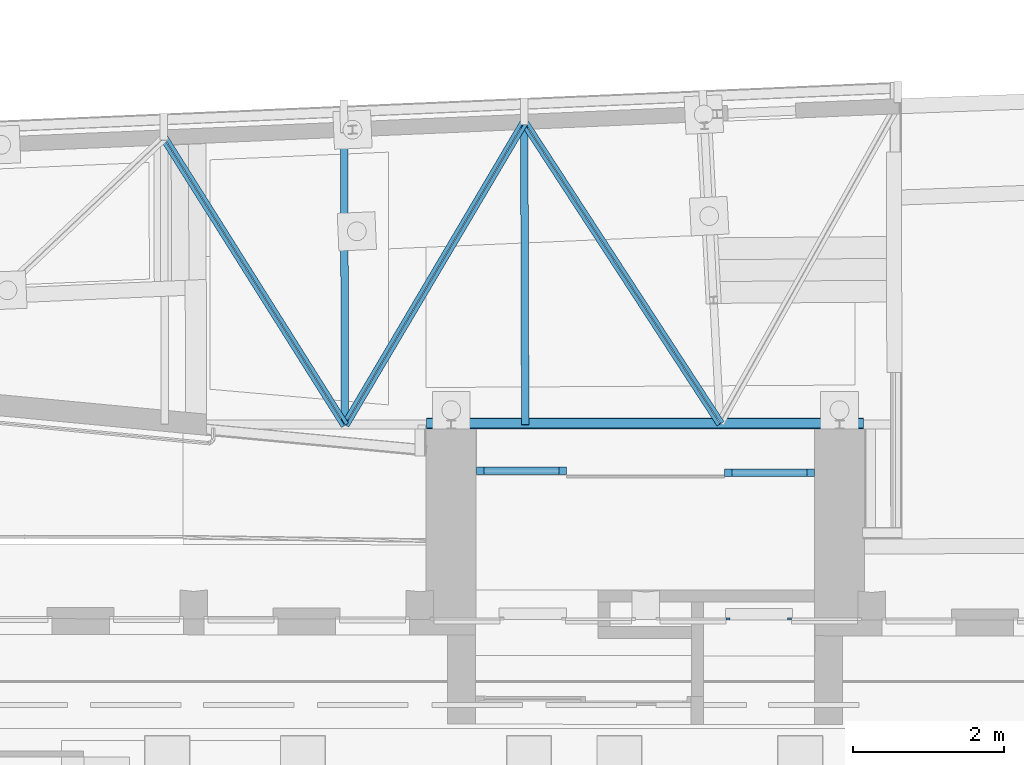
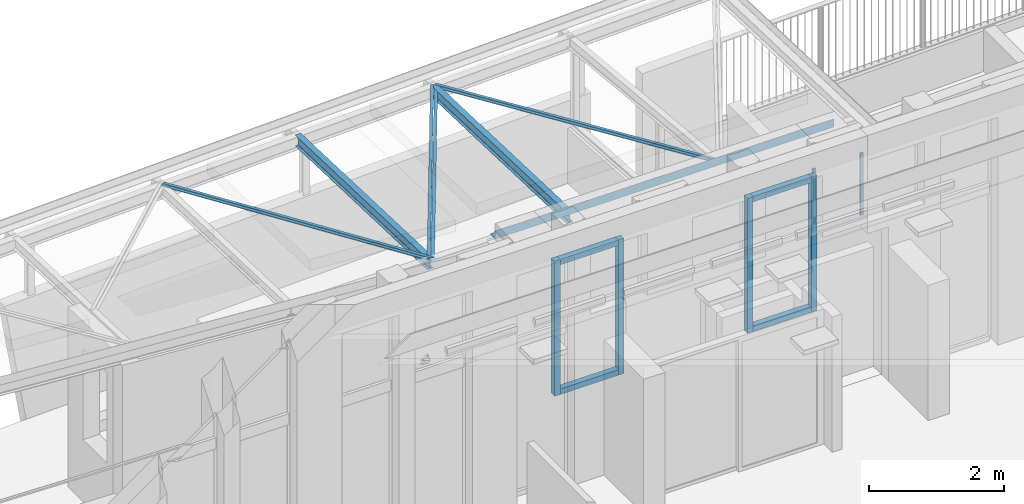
# One storey, part 10 of 128: 18 members, 6 beams, 6 elements without a shape of their own.
"""IFC2X3 building model written with IfcOpenShell, lengths in metres."""

from ifc_helpers import new_model, entity, si_unit, converted_unit, derived_unit, direction, frame, frame_2d, origin, origin_2d_with_axis, place, context, subcontext, project, spatial, polyline, circle_curve, parameter, trimmed, segment, composite_curve, rectangle, i_section, outline, extrude, source, transform, mapped, material, type_object, type_shapes, element, aggregate, save


model = new_model("IFC2X3")

# Units and contexts
model_context = context("Model", 3, precision=1e-05, world=origin(), true_north=direction((6.123031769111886e-17, 1.0)))
body_context = subcontext(model_context, "Body", "Model", "MODEL_VIEW")
ifc_project = project(units=[si_unit("LENGTHUNIT", "METRE"), si_unit("AREAUNIT", "SQUARE_METRE"), converted_unit("PLANEANGLEUNIT", "DEGREE", entity("IfcPlaneAngleMeasure", 0.017453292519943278), si_unit("PLANEANGLEUNIT", "RADIAN"), dimensions=[0, 0, 0, 0, 0, 0, 0]), derived_unit("THERMALTRANSMITTANCEUNIT", [(si_unit("MASSUNIT", "GRAM", prefix="KILO"), 1), (si_unit("THERMODYNAMICTEMPERATUREUNIT", "KELVIN"), -1), (si_unit("TIMEUNIT", "SECOND"), -3)])], contexts=[model_context])

# Site, building, storey
site_placement = place(None, origin())
site = spatial("IfcSite", under=ifc_project, at=site_placement, Name="Default", CompositionType="ELEMENT")
building_placement = place(site_placement, origin())
building = spatial("IfcBuilding", under=site, at=building_placement, CompositionType="ELEMENT")
storey_placement = place(building_placement, origin())
storey = spatial("IfcBuildingStorey", under=building, at=storey_placement, Name="00_RDC CAF", CompositionType="ELEMENT", Elevation=2.4982504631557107e-13)

# Curtain wall, member
curtain_wall_type_1 = type_object("IfcCurtainWallType", PredefinedType="NOTDEFINED")
curtain_wall_1_placement = place(storey_placement, origin())
curtain_wall_1 = element("IfcCurtainWall", 1, at=curtain_wall_1_placement, inside=storey, type_object=curtain_wall_type_1)
ifc_material_1 = material(Name="ARC - M.Ex - Blanc")
member_type_1 = type_object("IfcMemberType", Name="Meneau rectangulaire:F.Ri.M_Ext_Rectangulaire_100x100mm", PredefinedType="MULLION", material=ifc_material_1)
shared_shape_1 = source(origin(), body_context, "Body", "SweptSolid", [
    extrude(rectangle(XDim=0.1, YDim=0.10000000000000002, at=origin_2d_with_axis()), frame((-0.05, 0.0, -0.994778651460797), z_axis=(0.0, 0.0, 1.0), x_axis=(-1.0, 0.0, 0.0)), (0.0, 0.0, 1.0), 0.9947786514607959),
])
type_shapes(member_type_1, [shared_shape_1])
member_1_placement = place(curtain_wall_1_placement, frame((29.890725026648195, 146.08765821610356, 2.4499999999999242), z_axis=(1.0, 0.0, 0.0), x_axis=(0.0, 0.0, 1.0)))
member_1 = element("IfcMember", 2, at=member_1_placement, type_object=member_type_1, material=ifc_material_1, Name="Meneau rectangulaire:F.Ri.M_Ext_Rectangulaire_100x100mm", ObjectType="Meneau rectangulaire:F.Ri.M_Ext_Rectangulaire_100x100mm", context=body_context, shape_type="MappedRepresentation", body=[
    mapped(shared_shape_1, transform((0.0, 0.0, 0.0), scale=1.0)),
])

curtain_wall_2_placement = place(storey_placement, origin())
curtain_wall_2 = element("IfcCurtainWall", 3, at=curtain_wall_2_placement, inside=storey, type_object=curtain_wall_type_1)
member_2_placement = place(curtain_wall_2_placement, frame((29.890725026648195, 146.08765821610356, 2.45), z_axis=(1.0, 0.0, 0.0), x_axis=(0.0, 0.0, 1.0)))
member_2 = element("IfcMember", 4, at=member_2_placement, type_object=member_type_1, material=ifc_material_1, Name="Meneau rectangulaire:F.Ri.M_Ext_Rectangulaire_100x100mm", ObjectType="Meneau rectangulaire:F.Ri.M_Ext_Rectangulaire_100x100mm", context=body_context, shape_type="MappedRepresentation", body=[
    mapped(shared_shape_1, transform((0.0, 0.0, 0.0), scale=1.0)),
])

# Member
member_type_2 = type_object("IfcMemberType", Name="Meneau rectangulaire:F.Ri.M_Ext_Rectangulaire_100x100mm", PredefinedType="MULLION", material=ifc_material_1)
shared_shape_2 = source(origin(), body_context, "Body", "SweptSolid", [
    extrude(rectangle(XDim=0.1, YDim=0.10000000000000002, at=origin_2d_with_axis()), frame((-0.05, 0.0, -0.994778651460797), z_axis=(0.0, 0.0, 1.0), x_axis=(-1.0, 0.0, 0.0)), (0.0, 0.0, 1.0), 0.9947786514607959),
])
type_shapes(member_type_2, [shared_shape_2])
member_3_placement = place(curtain_wall_1_placement, frame((28.895946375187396, 146.08765821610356, 0.0), z_axis=(-1.0, 0.0, 0.0), x_axis=(0.0, 0.0, -1.0)))
member_3 = element("IfcMember", 5, at=member_3_placement, type_object=member_type_2, material=ifc_material_1, Name="Meneau rectangulaire:F.Ri.M_Ext_Rectangulaire_100x100mm", ObjectType="Meneau rectangulaire:F.Ri.M_Ext_Rectangulaire_100x100mm", context=body_context, shape_type="MappedRepresentation", body=[
    mapped(shared_shape_2, transform((0.0, 0.0, 0.0), scale=1.0)),
])

member_4_placement = place(curtain_wall_2_placement, frame((28.895946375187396, 146.08765821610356, 0.0), z_axis=(-1.0, 0.0, 0.0), x_axis=(0.0, 0.0, -1.0)))
member_4 = element("IfcMember", 6, at=member_4_placement, type_object=member_type_2, material=ifc_material_1, Name="Meneau rectangulaire:F.Ri.M_Ext_Rectangulaire_100x100mm", ObjectType="Meneau rectangulaire:F.Ri.M_Ext_Rectangulaire_100x100mm", context=body_context, shape_type="MappedRepresentation", body=[
    mapped(shared_shape_2, transform((0.0, 0.0, 0.0), scale=1.0)),
])

member_type_3 = type_object("IfcMemberType", Name="Meneau rectangulaire:F.Ri.M_Ext_Rectangulaire_100x100mm", PredefinedType="MULLION", material=ifc_material_1)
shared_shape_3 = source(origin(), body_context, "Body", "SweptSolid", [
    extrude(rectangle(XDim=0.1, YDim=0.10000000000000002, at=origin_2d_with_axis()), frame((-0.05, 0.0, -2.45), z_axis=(0.0, 0.0, 1.0), x_axis=(-1.0, 0.0, 0.0)), (0.0, 0.0, 1.0), 2.45),
])
type_shapes(member_type_3, [shared_shape_3])
member_5_placement = place(curtain_wall_1_placement, frame((29.990725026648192, 146.08765821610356, 0.0), z_axis=(0.0, 0.0, -1.0), x_axis=(1.0, 0.0, 0.0)))
member_5 = element("IfcMember", 7, at=member_5_placement, type_object=member_type_3, material=ifc_material_1, Name="Meneau rectangulaire:F.Ri.M_Ext_Rectangulaire_100x100mm", ObjectType="Meneau rectangulaire:F.Ri.M_Ext_Rectangulaire_100x100mm", context=body_context, shape_type="MappedRepresentation", body=[
    mapped(shared_shape_3, transform((0.0, 0.0, 0.0), scale=1.0)),
])

member_6_placement = place(curtain_wall_2_placement, frame((29.990725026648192, 146.08765821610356, 0.0), z_axis=(0.0, 0.0, -1.0), x_axis=(1.0, 0.0, 0.0)))
member_6 = element("IfcMember", 8, at=member_6_placement, type_object=member_type_3, material=ifc_material_1, Name="Meneau rectangulaire:F.Ri.M_Ext_Rectangulaire_100x100mm", ObjectType="Meneau rectangulaire:F.Ri.M_Ext_Rectangulaire_100x100mm", context=body_context, shape_type="MappedRepresentation", body=[
    mapped(shared_shape_3, transform((0.0, 0.0, 0.0), scale=1.0)),
])

member_type_4 = type_object("IfcMemberType", Name="Meneau rectangulaire:F.Ri.M_Ext_Rectangulaire_100x100mm", PredefinedType="MULLION", material=ifc_material_1)
shared_shape_4 = source(origin(), body_context, "Body", "SweptSolid", [
    extrude(rectangle(XDim=0.1, YDim=0.10000000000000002, at=origin_2d_with_axis()), frame((-0.05, 0.0, -2.45), z_axis=(0.0, 0.0, 1.0), x_axis=(-1.0, 0.0, 0.0)), (0.0, 0.0, 1.0), 2.45),
])
type_shapes(member_type_4, [shared_shape_4])
member_7_placement = place(curtain_wall_1_placement, frame((28.7959463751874, 146.08765821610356, 2.4499999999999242), z_axis=(0.0, 0.0, 1.0), x_axis=(-1.0, 0.0, 0.0)))
member_7 = element("IfcMember", 9, at=member_7_placement, type_object=member_type_4, material=ifc_material_1, Name="Meneau rectangulaire:F.Ri.M_Ext_Rectangulaire_100x100mm", ObjectType="Meneau rectangulaire:F.Ri.M_Ext_Rectangulaire_100x100mm", context=body_context, shape_type="MappedRepresentation", body=[
    mapped(shared_shape_4, transform((0.0, 0.0, 0.0), scale=1.0)),
])

aggregate(curtain_wall_1, [member_1, member_3, member_5, member_7])

member_8_placement = place(curtain_wall_2_placement, frame((28.7959463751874, 146.08765821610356, 2.45), z_axis=(0.0, 0.0, 1.0), x_axis=(-1.0, 0.0, 0.0)))
member_8 = element("IfcMember", 10, at=member_8_placement, type_object=member_type_4, material=ifc_material_1, Name="Meneau rectangulaire:F.Ri.M_Ext_Rectangulaire_100x100mm", ObjectType="Meneau rectangulaire:F.Ri.M_Ext_Rectangulaire_100x100mm", context=body_context, shape_type="MappedRepresentation", body=[
    mapped(shared_shape_4, transform((0.0, 0.0, 0.0), scale=1.0)),
])

aggregate(curtain_wall_2, [member_2, member_4, member_6, member_8])

# Curtain wall, member
curtain_wall_3_placement = place(storey_placement, origin())
curtain_wall_3 = element("IfcCurtainWall", 11, at=curtain_wall_3_placement, inside=storey, type_object=curtain_wall_type_1)
member_type_5 = type_object("IfcMemberType", Name="Meneau rectangulaire:F.Ri.M_Ext_Rectangulaire_100x100mm", PredefinedType="MULLION", material=ifc_material_1)
shared_shape_5 = source(origin(), body_context, "Body", "SweptSolid", [
    extrude(rectangle(XDim=0.1, YDim=0.10000000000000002, at=origin_2d_with_axis()), frame((-0.05, 0.0, -0.9947786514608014), z_axis=(0.0, 0.0, 1.0), x_axis=(-1.0, 0.0, 0.0)), (0.0, 0.0, 1.0), 0.9947786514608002),
])
type_shapes(member_type_5, [shared_shape_5])
member_9_placement = place(curtain_wall_3_placement, frame((25.601167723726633, 146.10885821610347, 2.4499999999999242), z_axis=(-1.0, 0.0, 0.0), x_axis=(0.0, 0.0, 1.0)))
member_9 = element("IfcMember", 12, at=member_9_placement, type_object=member_type_5, material=ifc_material_1, Name="Meneau rectangulaire:F.Ri.M_Ext_Rectangulaire_100x100mm", ObjectType="Meneau rectangulaire:F.Ri.M_Ext_Rectangulaire_100x100mm", context=body_context, shape_type="MappedRepresentation", body=[
    mapped(shared_shape_5, transform((0.0, 0.0, 0.0), scale=1.0)),
])

curtain_wall_4_placement = place(storey_placement, origin())
curtain_wall_4 = element("IfcCurtainWall", 13, at=curtain_wall_4_placement, inside=storey, type_object=curtain_wall_type_1)
member_10_placement = place(curtain_wall_4_placement, frame((25.601167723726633, 146.10885821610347, 2.45), z_axis=(-1.0, 0.0, 0.0), x_axis=(0.0, 0.0, 1.0)))
member_10 = element("IfcMember", 14, at=member_10_placement, type_object=member_type_5, material=ifc_material_1, Name="Meneau rectangulaire:F.Ri.M_Ext_Rectangulaire_100x100mm", ObjectType="Meneau rectangulaire:F.Ri.M_Ext_Rectangulaire_100x100mm", context=body_context, shape_type="MappedRepresentation", body=[
    mapped(shared_shape_5, transform((0.0, 0.0, 0.0), scale=1.0)),
])

# Member
member_type_6 = type_object("IfcMemberType", Name="Meneau rectangulaire:F.Ri.M_Ext_Rectangulaire_100x100mm", PredefinedType="MULLION", material=ifc_material_1)
shared_shape_6 = source(origin(), body_context, "Body", "SweptSolid", [
    extrude(rectangle(XDim=0.1, YDim=0.10000000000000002, at=origin_2d_with_axis()), frame((-0.05, 0.0, -0.9947786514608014), z_axis=(0.0, 0.0, 1.0), x_axis=(-1.0, 0.0, 0.0)), (0.0, 0.0, 1.0), 0.9947786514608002),
])
type_shapes(member_type_6, [shared_shape_6])
member_11_placement = place(curtain_wall_3_placement, frame((26.595946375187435, 146.10885821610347, 0.0), z_axis=(1.0, 0.0, 0.0), x_axis=(0.0, 0.0, -1.0)))
member_11 = element("IfcMember", 15, at=member_11_placement, type_object=member_type_6, material=ifc_material_1, Name="Meneau rectangulaire:F.Ri.M_Ext_Rectangulaire_100x100mm", ObjectType="Meneau rectangulaire:F.Ri.M_Ext_Rectangulaire_100x100mm", context=body_context, shape_type="MappedRepresentation", body=[
    mapped(shared_shape_6, transform((0.0, 0.0, 0.0), scale=1.0)),
])

member_12_placement = place(curtain_wall_4_placement, frame((26.595946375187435, 146.10885821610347, 0.0), z_axis=(1.0, 0.0, 0.0), x_axis=(0.0, 0.0, -1.0)))
member_12 = element("IfcMember", 16, at=member_12_placement, type_object=member_type_6, material=ifc_material_1, Name="Meneau rectangulaire:F.Ri.M_Ext_Rectangulaire_100x100mm", ObjectType="Meneau rectangulaire:F.Ri.M_Ext_Rectangulaire_100x100mm", context=body_context, shape_type="MappedRepresentation", body=[
    mapped(shared_shape_6, transform((0.0, 0.0, 0.0), scale=1.0)),
])

member_type_7 = type_object("IfcMemberType", Name="Meneau rectangulaire:F.Ri.M_Ext_Rectangulaire_100x100mm", PredefinedType="MULLION", material=ifc_material_1)
shared_shape_7 = source(origin(), body_context, "Body", "SweptSolid", [
    extrude(rectangle(XDim=0.1, YDim=0.10000000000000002, at=origin_2d_with_axis()), frame((-0.05, 0.0, -2.45), z_axis=(0.0, 0.0, 1.0), x_axis=(-1.0, 0.0, 0.0)), (0.0, 0.0, 1.0), 2.45),
])
type_shapes(member_type_7, [shared_shape_7])
member_13_placement = place(curtain_wall_3_placement, frame((25.50116772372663, 146.10885821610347, 0.0), z_axis=(0.0, 0.0, -1.0), x_axis=(-1.0, 0.0, 0.0)))
member_13 = element("IfcMember", 17, at=member_13_placement, type_object=member_type_7, material=ifc_material_1, Name="Meneau rectangulaire:F.Ri.M_Ext_Rectangulaire_100x100mm", ObjectType="Meneau rectangulaire:F.Ri.M_Ext_Rectangulaire_100x100mm", context=body_context, shape_type="MappedRepresentation", body=[
    mapped(shared_shape_7, transform((0.0, 0.0, 0.0), scale=1.0)),
])

member_14_placement = place(curtain_wall_4_placement, frame((25.50116772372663, 146.10885821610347, 0.0), z_axis=(0.0, 0.0, -1.0), x_axis=(-1.0, 0.0, 0.0)))
member_14 = element("IfcMember", 18, at=member_14_placement, type_object=member_type_7, material=ifc_material_1, Name="Meneau rectangulaire:F.Ri.M_Ext_Rectangulaire_100x100mm", ObjectType="Meneau rectangulaire:F.Ri.M_Ext_Rectangulaire_100x100mm", context=body_context, shape_type="MappedRepresentation", body=[
    mapped(shared_shape_7, transform((0.0, 0.0, 0.0), scale=1.0)),
])

member_type_8 = type_object("IfcMemberType", Name="Meneau rectangulaire:F.Ri.M_Ext_Rectangulaire_100x100mm", PredefinedType="MULLION", material=ifc_material_1)
shared_shape_8 = source(origin(), body_context, "Body", "SweptSolid", [
    extrude(rectangle(XDim=0.1, YDim=0.10000000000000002, at=origin_2d_with_axis()), frame((-0.05, 0.0, -2.45), z_axis=(0.0, 0.0, 1.0), x_axis=(-1.0, 0.0, 0.0)), (0.0, 0.0, 1.0), 2.45),
])
type_shapes(member_type_8, [shared_shape_8])
member_15_placement = place(curtain_wall_3_placement, frame((26.695946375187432, 146.10885821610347, 2.4499999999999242)))
member_15 = element("IfcMember", 19, at=member_15_placement, type_object=member_type_8, material=ifc_material_1, Name="Meneau rectangulaire:F.Ri.M_Ext_Rectangulaire_100x100mm", ObjectType="Meneau rectangulaire:F.Ri.M_Ext_Rectangulaire_100x100mm", context=body_context, shape_type="MappedRepresentation", body=[
    mapped(shared_shape_8, transform((0.0, 0.0, 0.0), scale=1.0)),
])

aggregate(curtain_wall_3, [member_9, member_11, member_13, member_15])

member_16_placement = place(curtain_wall_4_placement, frame((26.695946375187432, 146.10885821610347, 2.45)))
member_16 = element("IfcMember", 20, at=member_16_placement, type_object=member_type_8, material=ifc_material_1, Name="Meneau rectangulaire:F.Ri.M_Ext_Rectangulaire_100x100mm", ObjectType="Meneau rectangulaire:F.Ri.M_Ext_Rectangulaire_100x100mm", context=body_context, shape_type="MappedRepresentation", body=[
    mapped(shared_shape_8, transform((0.0, 0.0, 0.0), scale=1.0)),
])

aggregate(curtain_wall_4, [member_10, member_12, member_14, member_16])

# Curtain wall, member
curtain_wall_type_2 = type_object("IfcCurtainWallType", Name="Mur-rideau:FRi.Ext.30mm RDC", PredefinedType="NOTDEFINED")
curtain_wall_5_placement = place(storey_placement, origin())
curtain_wall_5 = element("IfcCurtainWall", 21, at=curtain_wall_5_placement, inside=storey, type_object=curtain_wall_type_2, Name="Mur-rideau:FRi.Ext.30mm RDC", ObjectType="Mur-rideau:FRi.Ext.30mm RDC")
member_type_9 = type_object("IfcMemberType", Name="Meneau rectangulaire:F.Ri.M_Ext_Rectangulaire_50x30mm", PredefinedType="MULLION", material=ifc_material_1)
shared_shape_9 = source(origin(), body_context, "Body", "SweptSolid", [
    extrude(rectangle(XDim=0.05, YDim=0.03, at=origin_2d_with_axis()), frame((-0.025, 0.0, -1.1279999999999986), z_axis=(0.0, 0.0, 1.0), x_axis=(-1.0, 0.0, 0.0)), (0.0, 0.0, 1.0), 1.1279999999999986),
])
type_shapes(member_type_9, [shared_shape_9])
member_17_placement = place(curtain_wall_5_placement, frame((28.865999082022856, 144.1440583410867, 3.0), z_axis=(0.0, 0.0, -1.0), x_axis=(1.0, 0.0, 0.0)))
member_17 = element("IfcMember", 22, at=member_17_placement, type_object=member_type_9, material=ifc_material_1, Name="Meneau rectangulaire:F.Ri.M_Ext_Rectangulaire_50x30mm", ObjectType="Meneau rectangulaire:F.Ri.M_Ext_Rectangulaire_50x30mm", context=body_context, shape_type="MappedRepresentation", body=[
    mapped(shared_shape_9, transform((0.0, 0.0, 0.0), scale=1.0)),
])
aggregate(curtain_wall_5, [member_17])

curtain_wall_6_placement = place(storey_placement, origin())
curtain_wall_6 = element("IfcCurtainWall", 23, at=curtain_wall_6_placement, inside=storey, type_object=curtain_wall_type_2, Name="Mur-rideau:FRi.Ext.30mm RDC", ObjectType="Mur-rideau:FRi.Ext.30mm RDC")
member_type_10 = type_object("IfcMemberType", Name="Meneau rectangulaire:F.Ri.M_Ext_Rectangulaire_50x30mm", PredefinedType="MULLION", material=ifc_material_1)
shared_shape_10 = source(origin(), body_context, "Body", "SweptSolid", [
    extrude(rectangle(XDim=0.05, YDim=0.03, at=origin_2d_with_axis()), frame((-0.025, 0.0, -1.1279999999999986), z_axis=(0.0, 0.0, 1.0), x_axis=(-1.0, 0.0, 0.0)), (0.0, 0.0, 1.0), 1.1279999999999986),
])
type_shapes(member_type_10, [shared_shape_10])
member_18_placement = place(curtain_wall_6_placement, frame((29.632372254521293, 144.1428530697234, 4.127999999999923), z_axis=(0.0, 0.0, 1.0), x_axis=(-1.0, 0.0, 0.0)))
member_18 = element("IfcMember", 24, at=member_18_placement, type_object=member_type_10, material=ifc_material_1, Name="Meneau rectangulaire:F.Ri.M_Ext_Rectangulaire_50x30mm", ObjectType="Meneau rectangulaire:F.Ri.M_Ext_Rectangulaire_50x30mm", context=body_context, shape_type="MappedRepresentation", body=[
    mapped(shared_shape_10, transform((0.0, 0.0, 0.0), scale=1.0)),
])
aggregate(curtain_wall_6, [member_18])

# Beams
ifc_material_2 = material(Name="Acier structurel - S235")
beam_type_1 = type_object("IfcBeamType", Name="IPE:IPE200", PredefinedType="BEAM")
beam_1_placement = place(storey_placement, frame((23.75729544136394, 146.71492311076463, 2.7184647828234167), z_axis=(-9.787612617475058e-05, 0.03099694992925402, 0.9995194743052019), x_axis=(-0.003156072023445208, 0.9995144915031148, -0.030997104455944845)))
element("IfcBeam", 25, at=beam_1_placement, inside=storey, type_object=beam_type_1, material=ifc_material_2, Name="IPE:IPE200", ObjectType="IPE:IPE200", context=body_context, shape_type="SweptSolid", body=[
    extrude(i_section(OverallWidth=0.099999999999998, OverallDepth=0.20000000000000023, WebThickness=0.005599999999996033, FlangeThickness=0.008500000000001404, FilletRadius=0.012000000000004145, at=frame_2d((1.6167622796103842e-15, 2.168404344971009e-15), x_axis=(0.0, 1.0))), frame((0.018627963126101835, 0.0, -0.10000000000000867), z_axis=(1.0, 0.0, 0.0), x_axis=(0.0, 0.0, -1.0)), (0.0, 0.0, 1.0), 3.9081000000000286),
])
beam_2_placement = place(storey_placement, frame((26.14924568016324, 146.72069221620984, 2.718171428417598), z_axis=(-0.0001028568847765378, 0.030983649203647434, 0.9995198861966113), x_axis=(-0.0033181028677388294, 0.9995143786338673, -0.030983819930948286)))
element("IfcBeam", 26, at=beam_2_placement, inside=storey, type_object=beam_type_1, material=ifc_material_2, Name="IPE:IPE200", ObjectType="IPE:IPE200", context=body_context, shape_type="SweptSolid", body=[
    extrude(i_section(OverallWidth=0.10000000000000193, OverallDepth=0.19999999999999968, WebThickness=0.0056000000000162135, FlangeThickness=0.008500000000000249, FilletRadius=0.011999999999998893, at=frame_2d((2.706168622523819e-16, -2.1649348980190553e-15), x_axis=(0.0, 1.0))), frame((0.004016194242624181, 0.0, -0.10000000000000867), z_axis=(1.0, 0.0, 0.0), x_axis=(0.0, 0.0, -1.0)), (0.0, 0.0, 1.0), 4.0193000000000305),
])
beam_type_2 = type_object("IfcBeamType", Name="LL-Deux cornières:DCED50x5x10", PredefinedType="BEAM", material=ifc_material_2)
shared_shape_11 = source(origin(), body_context, "Body", "SweptSolid", [
    extrude(outline(composite_curve([segment(polyline([(-0.016428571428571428, -0.016428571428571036), (0.03357142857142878, -0.016428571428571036)]), True, "CONTINUOUS"), segment(trimmed(circle_curve(frame_2d((0.02857142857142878, -0.016428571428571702), x_axis=(1.0, 0.0)), 0.005), [parameter(1.6284439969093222e-12)], [parameter(90.00000000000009)], True, "PARAMETER"), True, "CONTINUOUS"), segment(polyline([(0.0285714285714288, -0.0114285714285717), (-0.0064285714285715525, -0.0114285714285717)]), True, "CONTINUOUS"), segment(trimmed(circle_curve(frame_2d((-0.006428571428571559, -0.006428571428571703), x_axis=(1.0, 0.0)), 0.005), [parameter(180.00000000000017)], [parameter(269.9999999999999)], True, "PARAMETER"), False, "CONTINUOUS"), segment(polyline([(-0.01142857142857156, -0.006428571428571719), (-0.01142857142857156, 0.02857142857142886)]), True, "CONTINUOUS"), segment(trimmed(circle_curve(frame_2d((-0.01642857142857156, 0.02857142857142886), x_axis=(1.0, 0.0)), 0.005), [parameter(0.0)], [parameter(89.99999999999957)], True, "PARAMETER"), True, "CONTINUOUS"), segment(polyline([(-0.01642857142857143, 0.033571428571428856), (-0.01642857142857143, -0.016428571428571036)]), True, "CONTINUOUS")], self_intersect=False)), frame((-2.3365, -0.021428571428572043, -0.0024285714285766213), z_axis=(1.0, 0.0, 0.0), x_axis=(0.0, -1.0, 0.0)), (0.0, 0.0, 1.0), 4.667000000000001),
    extrude(outline(composite_curve([segment(polyline([(-0.01642857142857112, -0.016428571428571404), (0.03357142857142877, -0.016428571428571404)]), True, "CONTINUOUS"), segment(trimmed(circle_curve(frame_2d((0.028571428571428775, -0.016428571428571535), x_axis=(0.0, 1.0)), 0.005), [parameter(270.00000000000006)], [parameter(359.9999999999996)], True, "PARAMETER"), True, "CONTINUOUS"), segment(polyline([(0.028571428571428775, -0.011428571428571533), (-0.0064285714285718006, -0.011428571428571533)]), True, "CONTINUOUS"), segment(trimmed(circle_curve(frame_2d((-0.006428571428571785, -0.006428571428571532), x_axis=(0.0, 1.0)), 0.005), [parameter(90.00000000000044)], [parameter(180.0000000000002)], True, "PARAMETER"), False, "CONTINUOUS"), segment(polyline([(-0.01142857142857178, -0.006428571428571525), (-0.01142857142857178, 0.02857142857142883)]), True, "CONTINUOUS"), segment(trimmed(circle_curve(frame_2d((-0.016428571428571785, 0.028571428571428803), x_axis=(0.0, 1.0)), 0.005), [parameter(269.9999999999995)], [parameter(359.99999999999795)], True, "PARAMETER"), True, "CONTINUOUS"), segment(polyline([(-0.01642857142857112, 0.0335714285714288), (-0.01642857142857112, -0.016428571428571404)]), True, "CONTINUOUS")], self_intersect=False)), frame((-2.3364999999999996, 0.021428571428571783, -0.0024285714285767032), z_axis=(1.0, 0.0, 0.0), x_axis=(0.0, 0.0, -1.0)), (0.0, 0.0, 1.0), 4.667),
])
type_shapes(beam_type_2, [shared_shape_11])
beam_3_placement = place(storey_placement, frame((24.94641466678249, 148.72537661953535, 2.642080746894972), z_axis=(0.013590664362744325, 0.02297784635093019, 0.9996435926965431), x_axis=(-0.5089044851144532, -0.8604089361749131, 0.02669620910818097)))
element("IfcBeam", 27, at=beam_3_placement, inside=storey, type_object=beam_type_2, material=ifc_material_2, Name="LL-Deux cornières:DCED50x5x10", ObjectType="LL-Deux cornières:DCED50x5x10", context=body_context, shape_type="MappedRepresentation", body=[
    mapped(shared_shape_11, transform((0.0, 0.0, 0.0), scale=1.0)),
])
beam_type_3 = type_object("IfcBeamType", Name="LL-Deux cornières:DCED50x5x10", PredefinedType="BEAM", material=ifc_material_2)
shared_shape_12 = source(origin(), body_context, "Body", "SweptSolid", [
    extrude(outline(composite_curve([segment(polyline([(-0.016428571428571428, -0.016428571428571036), (0.03357142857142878, -0.016428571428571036)]), True, "CONTINUOUS"), segment(trimmed(circle_curve(frame_2d((0.02857142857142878, -0.016428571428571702), x_axis=(1.0, 0.0)), 0.005), [parameter(1.6284439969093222e-12)], [parameter(90.00000000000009)], True, "PARAMETER"), True, "CONTINUOUS"), segment(polyline([(0.0285714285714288, -0.0114285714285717), (-0.0064285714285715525, -0.0114285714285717)]), True, "CONTINUOUS"), segment(trimmed(circle_curve(frame_2d((-0.006428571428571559, -0.006428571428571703), x_axis=(1.0, 0.0)), 0.005), [parameter(180.00000000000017)], [parameter(269.9999999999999)], True, "PARAMETER"), False, "CONTINUOUS"), segment(polyline([(-0.01142857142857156, -0.006428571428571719), (-0.01142857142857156, 0.02857142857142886)]), True, "CONTINUOUS"), segment(trimmed(circle_curve(frame_2d((-0.01642857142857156, 0.02857142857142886), x_axis=(1.0, 0.0)), 0.005), [parameter(0.0)], [parameter(89.99999999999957)], True, "PARAMETER"), True, "CONTINUOUS"), segment(polyline([(-0.01642857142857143, 0.033571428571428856), (-0.01642857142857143, -0.016428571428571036)]), True, "CONTINUOUS")], self_intersect=False)), frame((-2.254209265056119, -0.021428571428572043, -0.0024285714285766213), z_axis=(1.0, 0.0, 0.0), x_axis=(0.0, -1.0, 0.0)), (0.0, 0.0, 1.0), 4.5062370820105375),
    extrude(outline(composite_curve([segment(polyline([(-0.01642857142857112, -0.016428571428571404), (0.03357142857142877, -0.016428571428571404)]), True, "CONTINUOUS"), segment(trimmed(circle_curve(frame_2d((0.028571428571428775, -0.016428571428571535), x_axis=(0.0, 1.0)), 0.005), [parameter(270.00000000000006)], [parameter(359.9999999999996)], True, "PARAMETER"), True, "CONTINUOUS"), segment(polyline([(0.028571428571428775, -0.011428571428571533), (-0.0064285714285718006, -0.011428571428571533)]), True, "CONTINUOUS"), segment(trimmed(circle_curve(frame_2d((-0.006428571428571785, -0.006428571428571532), x_axis=(0.0, 1.0)), 0.005), [parameter(90.00000000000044)], [parameter(180.0000000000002)], True, "PARAMETER"), False, "CONTINUOUS"), segment(polyline([(-0.01142857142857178, -0.006428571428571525), (-0.01142857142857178, 0.02857142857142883)]), True, "CONTINUOUS"), segment(trimmed(circle_curve(frame_2d((-0.016428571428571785, 0.028571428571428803), x_axis=(0.0, 1.0)), 0.005), [parameter(269.9999999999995)], [parameter(359.99999999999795)], True, "PARAMETER"), True, "CONTINUOUS"), segment(polyline([(-0.01642857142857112, 0.0335714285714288), (-0.01642857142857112, -0.016428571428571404)]), True, "CONTINUOUS")], self_intersect=False)), frame((-2.2542092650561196, 0.021428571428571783, -0.0024285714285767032), z_axis=(1.0, 0.0, 0.0), x_axis=(0.0, 0.0, -1.0)), (0.0, 0.0, 1.0), 4.506237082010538),
])
type_shapes(beam_type_3, [shared_shape_12])
beam_4_placement = place(storey_placement, frame((22.55638308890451, 148.62133927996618, 2.6453242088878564), z_axis=(-0.013984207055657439, 0.02219955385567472, 0.9996557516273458), x_axis=(-0.5328129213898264, 0.8458262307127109, -0.02623696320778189)))
element("IfcBeam", 28, at=beam_4_placement, inside=storey, type_object=beam_type_3, material=ifc_material_2, Name="LL-Deux cornières:DCED50x5x10", ObjectType="LL-Deux cornières:DCED50x5x10", context=body_context, shape_type="MappedRepresentation", body=[
    mapped(shared_shape_12, transform((0.0, 0.0, 0.0), scale=1.0)),
])
beam_type_4 = type_object("IfcBeamType", Name="LL-Deux cornières:DCED50x5x10", PredefinedType="BEAM", material=ifc_material_2)
shared_shape_13 = source(origin(), body_context, "Body", "SweptSolid", [
    extrude(outline(composite_curve([segment(polyline([(-0.016428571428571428, -0.016428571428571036), (0.03357142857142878, -0.016428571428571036)]), True, "CONTINUOUS"), segment(trimmed(circle_curve(frame_2d((0.02857142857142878, -0.016428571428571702), x_axis=(1.0, 0.0)), 0.005), [parameter(1.6284439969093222e-12)], [parameter(90.00000000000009)], True, "PARAMETER"), True, "CONTINUOUS"), segment(polyline([(0.0285714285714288, -0.0114285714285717), (-0.0064285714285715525, -0.0114285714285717)]), True, "CONTINUOUS"), segment(trimmed(circle_curve(frame_2d((-0.006428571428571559, -0.006428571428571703), x_axis=(1.0, 0.0)), 0.005), [parameter(180.00000000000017)], [parameter(269.9999999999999)], True, "PARAMETER"), False, "CONTINUOUS"), segment(polyline([(-0.01142857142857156, -0.006428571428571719), (-0.01142857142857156, 0.02857142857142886)]), True, "CONTINUOUS"), segment(trimmed(circle_curve(frame_2d((-0.01642857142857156, 0.02857142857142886), x_axis=(1.0, 0.0)), 0.005), [parameter(0.0)], [parameter(89.99999999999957)], True, "PARAMETER"), True, "CONTINUOUS"), segment(polyline([(-0.01642857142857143, 0.033571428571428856), (-0.01642857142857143, -0.016428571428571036)]), True, "CONTINUOUS")], self_intersect=False)), frame((-2.3815000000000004, -0.021428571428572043, -0.0024285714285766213), z_axis=(1.0, 0.0, 0.0), x_axis=(0.0, -1.0, 0.0)), (0.0, 0.0, 1.0), 4.776000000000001),
    extrude(outline(composite_curve([segment(polyline([(-0.01642857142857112, -0.016428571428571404), (0.03357142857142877, -0.016428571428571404)]), True, "CONTINUOUS"), segment(trimmed(circle_curve(frame_2d((0.028571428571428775, -0.016428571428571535), x_axis=(0.0, 1.0)), 0.005), [parameter(270.00000000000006)], [parameter(359.9999999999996)], True, "PARAMETER"), True, "CONTINUOUS"), segment(polyline([(0.028571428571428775, -0.011428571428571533), (-0.0064285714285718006, -0.011428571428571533)]), True, "CONTINUOUS"), segment(trimmed(circle_curve(frame_2d((-0.006428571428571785, -0.006428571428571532), x_axis=(0.0, 1.0)), 0.005), [parameter(90.00000000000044)], [parameter(180.0000000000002)], True, "PARAMETER"), False, "CONTINUOUS"), segment(polyline([(-0.01142857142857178, -0.006428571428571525), (-0.01142857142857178, 0.02857142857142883)]), True, "CONTINUOUS"), segment(trimmed(circle_curve(frame_2d((-0.016428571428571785, 0.028571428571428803), x_axis=(0.0, 1.0)), 0.005), [parameter(269.9999999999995)], [parameter(359.99999999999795)], True, "PARAMETER"), True, "CONTINUOUS"), segment(polyline([(-0.01642857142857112, 0.0335714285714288), (-0.01642857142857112, -0.016428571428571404)]), True, "CONTINUOUS")], self_intersect=False)), frame((-2.3815, 0.021428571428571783, -0.0024285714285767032), z_axis=(1.0, 0.0, 0.0), x_axis=(0.0, 0.0, -1.0)), (0.0, 0.0, 1.0), 4.776),
])
type_shapes(beam_type_4, [shared_shape_13])
beam_5_placement = place(storey_placement, frame((27.435308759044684, 148.74097650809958, 2.6415750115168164), z_axis=(-0.01417815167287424, 0.021773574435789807, 0.9996623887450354), x_axis=(0.5454892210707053, -0.8377149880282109, 0.025982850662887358)))
element("IfcBeam", 29, at=beam_5_placement, inside=storey, type_object=beam_type_4, material=ifc_material_2, Name="LL-Deux cornières:DCED50x5x10", ObjectType="LL-Deux cornières:DCED50x5x10", context=body_context, shape_type="MappedRepresentation", body=[
    mapped(shared_shape_13, transform((0.0, 0.0, 0.0), scale=1.0)),
])
beam_type_5 = type_object("IfcBeamType", Name="Cornière à ailes égales:L150x10", PredefinedType="BEAM")
beam_6_placement = place(storey_placement, frame((24.834872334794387, 146.70324110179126, 2.8681714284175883)))
element("IfcBeam", 30, at=beam_6_placement, inside=storey, type_object=beam_type_5, material=ifc_material_2, Name="Cornière à ailes égales:L150x10", ObjectType="Cornière à ailes égales:L150x10", context=body_context, shape_type="SweptSolid", body=[
    extrude(outline(composite_curve([segment(polyline([(-0.09555555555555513, -0.05444444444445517), (0.05444444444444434, -0.05444444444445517)]), True, "CONTINUOUS"), segment(polyline([(0.05444444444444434, -0.05444444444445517), (0.05444444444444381, 0.09555555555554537)]), True, "CONTINUOUS"), segment(polyline([(0.05444444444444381, 0.09555555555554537), (0.05244444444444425, 0.09555555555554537)]), True, "CONTINUOUS"), segment(trimmed(circle_curve(frame_2d((0.05244444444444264, 0.0875555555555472), x_axis=(0.0, 1.0)), 0.007999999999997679), [parameter(0.0)], [parameter(90.0000000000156)], True, "PARAMETER"), True, "CONTINUOUS"), segment(polyline([(0.044444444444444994, 0.0875555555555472), (0.044444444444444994, -0.02844444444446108)]), True, "CONTINUOUS"), segment(trimmed(circle_curve(frame_2d((0.028444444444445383, -0.02844444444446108), x_axis=(1.0, 0.0)), 0.01599999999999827), [parameter(269.99999999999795)], [parameter(0.0)], True, "PARAMETER"), False, "CONTINUOUS"), segment(polyline([(0.02844444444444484, -0.04444444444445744), (-0.08755555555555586, -0.04444444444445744)]), True, "CONTINUOUS"), segment(trimmed(circle_curve(frame_2d((-0.08755555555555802, -0.052444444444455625), x_axis=(0.0, 1.0)), 0.007999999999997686), [parameter(0.0)], [parameter(90.0000000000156)], True, "PARAMETER"), True, "CONTINUOUS"), segment(polyline([(-0.09555555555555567, -0.052444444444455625), (-0.09555555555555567, -0.05444444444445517)]), True, "CONTINUOUS")], self_intersect=False)), frame((0.003532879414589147, 0.014144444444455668, -0.09555555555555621), z_axis=(1.0, 0.0, 0.0), x_axis=(0.0, 0.0, -1.0)), (0.0, 0.0, 1.0), 5.79959346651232),
])

save(model, "model.ifc")
